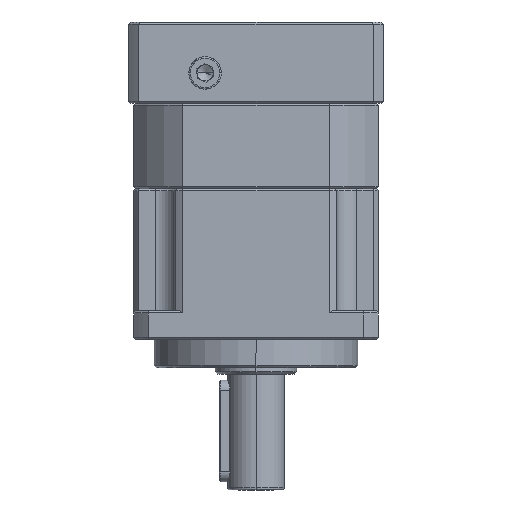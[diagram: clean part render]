
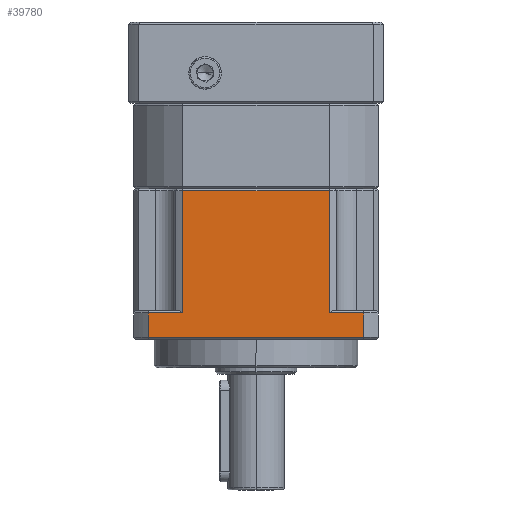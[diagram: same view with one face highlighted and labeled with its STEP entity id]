
A CAD part, left-side view. The second image highlights one B-rep face of the part: STEP entity #39780.
In plain terms, the highlighted planar face has unit normal (-1, 0, 0).
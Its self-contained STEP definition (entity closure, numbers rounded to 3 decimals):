
#489 = CARTESIAN_POINT ( 'NONE',  ( -62.293, -19.087, 80.502 ) ) ;
#3420 = CARTESIAN_POINT ( 'NONE',  ( -62.293, 37.37, 74.502 ) ) ;
#6852 = CARTESIAN_POINT ( 'NONE',  ( -62.293, -19.087, 74.502 ) ) ;
#9290 = CARTESIAN_POINT ( 'NONE',  ( -62.293, -15.545, 80.502 ) ) ;
#10147 = ORIENTED_EDGE ( 'NONE', *, *, #15073, .F. ) ;
#10483 = LINE ( 'NONE', #489, #51190 ) ;
#15073 = EDGE_CURVE ( 'NONE', #90512, #46898, #78781, .T. ) ;
#15093 = EDGE_LOOP ( 'NONE', ( #18944, #46124, #67344, #52147, #22082, #10147, #58302, #73239 ) ) ;
#15894 = CARTESIAN_POINT ( 'NONE',  ( -62.293, -19.087, 111.002 ) ) ;
#16554 = VECTOR ( 'NONE', #63342, 1000. ) ;
#17010 = CARTESIAN_POINT ( 'NONE',  ( -62.293, -19.087, 110.502 ) ) ;
#18491 = VECTOR ( 'NONE', #34206, 1000. ) ;
#18944 = ORIENTED_EDGE ( 'NONE', *, *, #70236, .F. ) ;
#19740 = VERTEX_POINT ( 'NONE', #61403 ) ;
#21035 = LINE ( 'NONE', #74324, #18491 ) ;
#21874 = CARTESIAN_POINT ( 'NONE',  ( -62.293, 37.37, 80.502 ) ) ;
#22082 = ORIENTED_EDGE ( 'NONE', *, *, #84816, .F. ) ;
#23379 = PLANE ( 'NONE',  #59820 ) ;
#24085 = DIRECTION ( 'NONE',  ( 0., 0., -1. ) ) ;
#25065 = DIRECTION ( 'NONE',  ( 0., -1., 0. ) ) ;
#25674 = VERTEX_POINT ( 'NONE', #58428 ) ;
#30236 = LINE ( 'NONE', #102519, #92509 ) ;
#30739 = VERTEX_POINT ( 'NONE', #81296 ) ;
#34206 = DIRECTION ( 'NONE',  ( 0., 0., -1. ) ) ;
#34665 = CARTESIAN_POINT ( 'NONE',  ( -62.293, 37.37, 111.002 ) ) ;
#35755 = VECTOR ( 'NONE', #95124, 1000. ) ;
#38290 = LINE ( 'NONE', #96553, #35755 ) ;
#39486 = DIRECTION ( 'NONE',  ( 0., 0., -1. ) ) ;
#39780 = ADVANCED_FACE ( 'NONE', ( #81658 ), #23379, .F. ) ;
#41340 = CARTESIAN_POINT ( 'NONE',  ( -62.293, 28.941, 80.502 ) ) ;
#42817 = DIRECTION ( 'NONE',  ( 0., 0., 1. ) ) ;
#45294 = EDGE_CURVE ( 'NONE', #87773, #99912, #30236, .T. ) ;
#46124 = ORIENTED_EDGE ( 'NONE', *, *, #74899, .T. ) ;
#46898 = VERTEX_POINT ( 'NONE', #3420 ) ;
#46900 = CARTESIAN_POINT ( 'NONE',  ( -62.293, -7.115, 111.002 ) ) ;
#47205 = EDGE_CURVE ( 'NONE', #19740, #54897, #10483, .T. ) ;
#50456 = VECTOR ( 'NONE', #42817, 1000. ) ;
#51190 = VECTOR ( 'NONE', #25065, 1000. ) ;
#52147 = ORIENTED_EDGE ( 'NONE', *, *, #45294, .F. ) ;
#52449 = LINE ( 'NONE', #17010, #71490 ) ;
#52996 = LINE ( 'NONE', #34665, #50456 ) ;
#53439 = VECTOR ( 'NONE', #39486, 1000. ) ;
#53931 = DIRECTION ( 'NONE',  ( 0., -1., 0. ) ) ;
#54897 = VERTEX_POINT ( 'NONE', #9290 ) ;
#58302 = ORIENTED_EDGE ( 'NONE', *, *, #76150, .F. ) ;
#58428 = CARTESIAN_POINT ( 'NONE',  ( -62.293, -7.115, 110.502 ) ) ;
#58795 = EDGE_CURVE ( 'NONE', #99912, #30739, #38290, .T. ) ;
#59820 = AXIS2_PLACEMENT_3D ( 'NONE', #15894, #72723, #24085 ) ;
#61403 = CARTESIAN_POINT ( 'NONE',  ( -62.293, -7.115, 80.502 ) ) ;
#63342 = DIRECTION ( 'NONE',  ( 0., 1., 0. ) ) ;
#67344 = ORIENTED_EDGE ( 'NONE', *, *, #58795, .F. ) ;
#70236 = EDGE_CURVE ( 'NONE', #25674, #19740, #94074, .T. ) ;
#71490 = VECTOR ( 'NONE', #73816, 1000. ) ;
#72723 = DIRECTION ( 'NONE',  ( 1., 0., 0. ) ) ;
#73239 = ORIENTED_EDGE ( 'NONE', *, *, #47205, .F. ) ;
#73816 = DIRECTION ( 'NONE',  ( 0., 1., 0. ) ) ;
#74324 = CARTESIAN_POINT ( 'NONE',  ( -62.293, -15.545, 111.002 ) ) ;
#74899 = EDGE_CURVE ( 'NONE', #25674, #30739, #52449, .T. ) ;
#76150 = EDGE_CURVE ( 'NONE', #54897, #90512, #21035, .T. ) ;
#78781 = LINE ( 'NONE', #6852, #16554 ) ;
#81296 = CARTESIAN_POINT ( 'NONE',  ( -62.293, 28.941, 110.502 ) ) ;
#81658 = FACE_OUTER_BOUND ( 'NONE', #15093, .T. ) ;
#84816 = EDGE_CURVE ( 'NONE', #46898, #87773, #52996, .T. ) ;
#87773 = VERTEX_POINT ( 'NONE', #21874 ) ;
#90512 = VERTEX_POINT ( 'NONE', #102718 ) ;
#92509 = VECTOR ( 'NONE', #53931, 1000. ) ;
#94074 = LINE ( 'NONE', #46900, #53439 ) ;
#95124 = DIRECTION ( 'NONE',  ( 0., 0., 1. ) ) ;
#96553 = CARTESIAN_POINT ( 'NONE',  ( -62.293, 28.941, 111.002 ) ) ;
#99912 = VERTEX_POINT ( 'NONE', #41340 ) ;
#102519 = CARTESIAN_POINT ( 'NONE',  ( -62.293, -19.087, 80.502 ) ) ;
#102718 = CARTESIAN_POINT ( 'NONE',  ( -62.293, -15.545, 74.502 ) ) ;
